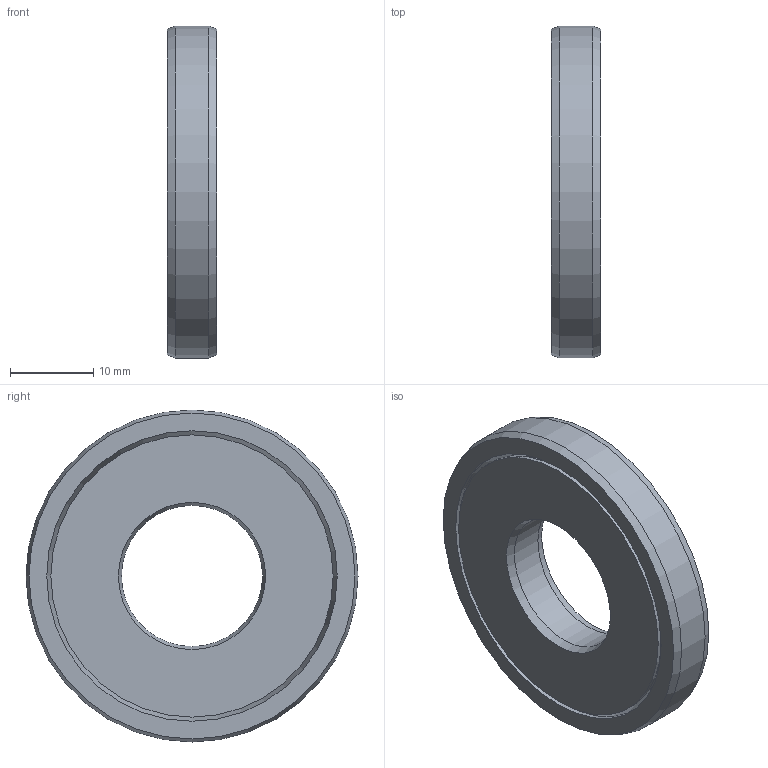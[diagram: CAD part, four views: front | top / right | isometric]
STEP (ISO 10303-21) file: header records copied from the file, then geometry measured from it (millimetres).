
FILE_DESCRIPTION(/* description */ (''),/* implementation_level */ '2;1');
FILE_NAME(/* name */ '306799 CF 6203 A0.stp',/* time_stamp */ '2016-12-16T11:01:10+01:00',/* author */ (''),/* organization */ (''),/* preprocessor_version */ 'ST-DEVELOPER v15',/* originating_system */ 'SIEMENS PLM Software NX 8.5',/* authorisation */ '');
FILE_SCHEMA (('CONFIG_CONTROL_DESIGN'));
Length unit declared in the file: millimetre
Products named in the file (1): ATE0000139_01
Bounding box: 6 x 40 x 40 mm (x, y, z)
Volume: 5449 mm3; surface area: 5587.3 mm2
Topology: 2 solids, 2 shells, 26 faces, 46 edges, 28 vertices
Faces by surface type: cone 10, plane 8, cylinder 8
Full cylindrical faces by diameter (mm): 17 x1, 22.5 x1, 23.5 x1, 25 x1, 26 x1, 34 x1, 35 x1, 40 x1
Entity records: 614 total; most frequent: DIRECTION 106, CARTESIAN_POINT 79, AXIS2_PLACEMENT_3D 53, FACE_BOUND 52, EDGE_LOOP 52, ORIENTED_EDGE 52, ADVANCED_FACE 26, VERTEX_POINT 26
